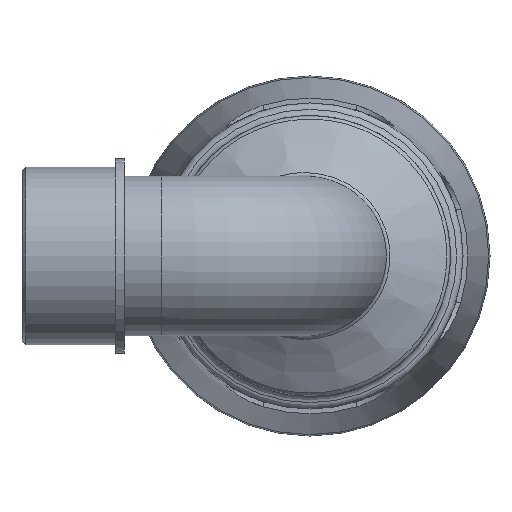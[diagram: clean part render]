
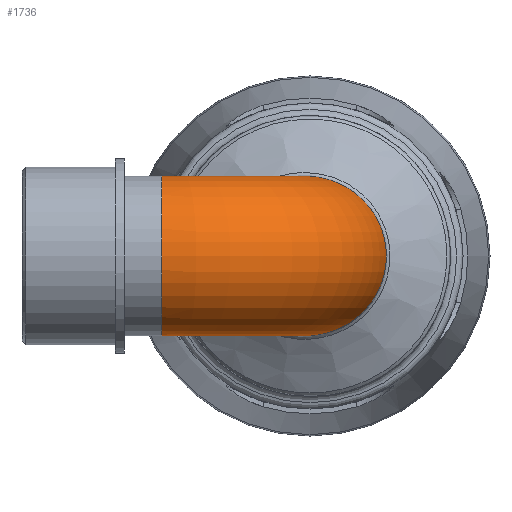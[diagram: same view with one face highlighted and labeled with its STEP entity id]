
A CAD part, left-side view. The second image highlights one B-rep face of the part: STEP entity #1736.
In plain terms, the highlighted toroidal (fillet/blend) face has major radius 34.998 mm and minor radius 18.86 mm.
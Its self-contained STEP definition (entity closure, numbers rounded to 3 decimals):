
#80=TOROIDAL_SURFACE('',#1855,34.998,18.86);
#90=FACE_BOUND('',#436,.T.);
#319=FACE_OUTER_BOUND('',#435,.T.);
#435=EDGE_LOOP('',(#1149));
#436=EDGE_LOOP('',(#1150));
#557=B_SPLINE_CURVE_WITH_KNOTS('',3,(#2617,#2618,#2619,#2620,#2621,#2622,
#2623,#2624,#2625,#2626,#2627,#2628,#2629,#2630,#2631,#2632,#2633),
 .UNSPECIFIED.,.T.,.F.,(4,1,1,1,1,1,1,1,1,1,1,1,1,1,4),(-3.142,
-2.693,-2.244,-1.795,-1.346,
-1.047,-0.449,0.15,0.449,
0.898,1.346,1.795,2.244,2.693,
3.142),.UNSPECIFIED.);
#631=CIRCLE('',#1850,18.86);
#721=VERTEX_POINT('',#2615);
#728=VERTEX_POINT('',#2874);
#882=EDGE_CURVE('',#721,#721,#557,.T.);
#892=EDGE_CURVE('',#728,#728,#631,.T.);
#1149=ORIENTED_EDGE('',*,*,#882,.F.);
#1150=ORIENTED_EDGE('',*,*,#892,.T.);
#1736=ADVANCED_FACE('',(#319,#90),#80,.T.);
#1850=AXIS2_PLACEMENT_3D('',#2875,#2066,#2067);
#1855=AXIS2_PLACEMENT_3D('',#2883,#2076,#2077);
#2066=DIRECTION('center_axis',(0.,-1.,0.));
#2067=DIRECTION('ref_axis',(-1.,0.,0.));
#2076=DIRECTION('center_axis',(0.,0.,1.));
#2077=DIRECTION('ref_axis',(1.,0.,0.));
#2615=CARTESIAN_POINT('',(25.169,22.198,0.));
#2617=CARTESIAN_POINT('Ctrl Pts',(25.17,22.203,0.));
#2618=CARTESIAN_POINT('Ctrl Pts',(25.17,22.203,2.88));
#2619=CARTESIAN_POINT('Ctrl Pts',(25.132,20.452,8.642));
#2620=CARTESIAN_POINT('Ctrl Pts',(25.168,14.293,15.187));
#2621=CARTESIAN_POINT('Ctrl Pts',(25.297,6.161,18.926));
#2622=CARTESIAN_POINT('Ctrl Pts',(25.405,-1.773,19.068));
#2623=CARTESIAN_POINT('Ctrl Pts',(25.499,-10.055,16.118));
#2624=CARTESIAN_POINT('Ctrl Pts',(25.561,-17.155,8.924));
#2625=CARTESIAN_POINT('Ctrl Pts',(25.573,-18.709,-1.07));
#2626=CARTESIAN_POINT('Ctrl Pts',(25.551,-16.008,-9.424));
#2627=CARTESIAN_POINT('Ctrl Pts',(25.507,-10.919,-15.49));
#2628=CARTESIAN_POINT('Ctrl Pts',(25.419,-2.765,-19.094));
#2629=CARTESIAN_POINT('Ctrl Pts',(25.297,6.16,-18.923));
#2630=CARTESIAN_POINT('Ctrl Pts',(25.169,14.293,-15.189));
#2631=CARTESIAN_POINT('Ctrl Pts',(25.132,20.452,-8.641));
#2632=CARTESIAN_POINT('Ctrl Pts',(25.17,22.203,-2.881));
#2633=CARTESIAN_POINT('Ctrl Pts',(25.17,22.203,0.));
#2874=CARTESIAN_POINT('',(18.86,34.998,0.));
#2875=CARTESIAN_POINT('Origin',(0.,34.998,0.));
#2883=CARTESIAN_POINT('Origin',(34.998,34.998,0.));
